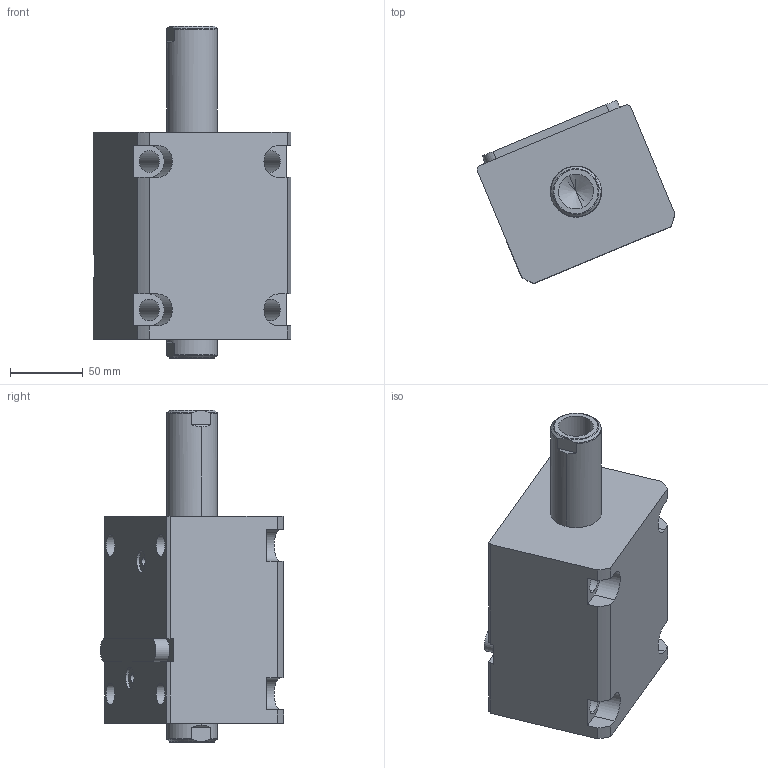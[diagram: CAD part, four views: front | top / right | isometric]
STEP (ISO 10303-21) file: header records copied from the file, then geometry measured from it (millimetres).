
FILE_DESCRIPTION (( 'STEP AP214' ), '1' );
FILE_NAME ('chtb-lwm63x60n_asm.STEP', '2018-05-22T02:19:20', ( 'Windows' ), ( 'Microsoft' ), 'SwSTEP 2.0', 'SolidWorks 2015', '' );
FILE_SCHEMA (( 'AUTOMOTIVE_DESIGN' ));
Length unit declared in the file: millimetre
Products named in the file (5): CHTB-SW63X60NHSG; CHTB-LWM63X60NBT; CHTB-LA63PJ; CHTB-63QG; chtb-lwm63x60n_asm
Assembly tree (4 placements, depth 2):
  chtb-lwm63x60n_asm
    CHTB-63QG
    CHTB-LA63PJ
    CHTB-LWM63X60NBT
    CHTB-SW63X60NHSG
Bounding box: 135.77 x 126.06 x 228 mm (x, y, z)
Volume: 1296398.8 mm3; surface area: 178774.6 mm2
Topology: 4 solids, 4 shells, 186 faces, 543 edges, 367 vertices
Faces by surface type: cylinder 103, plane 47, bspline 12, cone 12, torus 12
Entity records: 18665 total; most frequent: CARTESIAN_POINT 13839, ORIENTED_EDGE 1070, DIRECTION 834, EDGE_CURVE 535, VERTEX_POINT 367, AXIS2_PLACEMENT_3D 318, EDGE_LOOP 212, LINE 198
